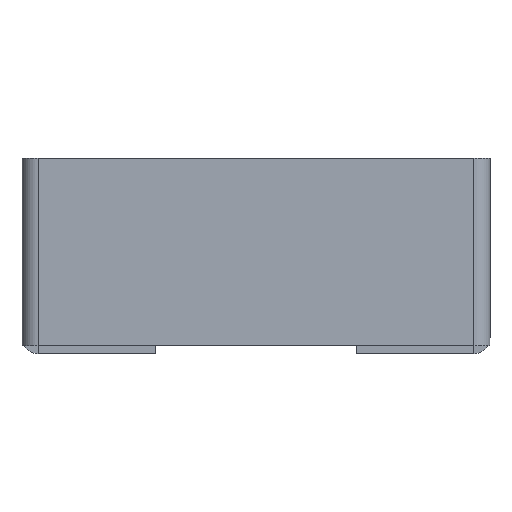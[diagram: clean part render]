
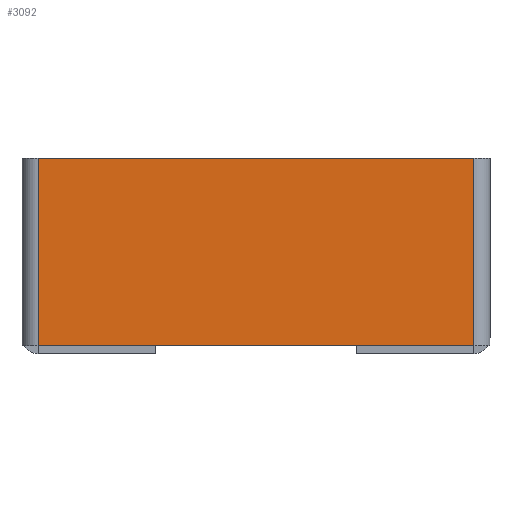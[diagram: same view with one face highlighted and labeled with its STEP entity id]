
A CAD part, front view. The second image highlights one B-rep face of the part: STEP entity #3092.
In plain terms, the highlighted planar face has unit normal (0, -1, 0).
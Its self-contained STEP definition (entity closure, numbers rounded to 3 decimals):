
#142 = DIRECTION ( 'NONE',  ( 1., 0., 0. ) ) ;
#193 = VERTEX_POINT ( 'NONE', #6000 ) ;
#413 = EDGE_LOOP ( 'NONE', ( #2958, #2737, #5748, #509 ) ) ;
#432 = VECTOR ( 'NONE', #142, 1000. ) ;
#509 = ORIENTED_EDGE ( 'NONE', *, *, #5050, .F. ) ;
#613 = DIRECTION ( 'NONE',  ( 0., 0., 1. ) ) ;
#679 = DIRECTION ( 'NONE',  ( 0., 0., -1. ) ) ;
#732 = VECTOR ( 'NONE', #2213, 1000. ) ;
#824 = LINE ( 'NONE', #6776, #732 ) ;
#1495 = DIRECTION ( 'NONE',  ( 0., 1., 0. ) ) ;
#1547 = PLANE ( 'NONE',  #1560 ) ;
#1560 = AXIS2_PLACEMENT_3D ( 'NONE', #2087, #1495, #6085 ) ;
#1650 = LINE ( 'NONE', #1821, #3500 ) ;
#1821 = CARTESIAN_POINT ( 'NONE',  ( -67.5, -2.5, 0. ) ) ;
#1822 = VECTOR ( 'NONE', #613, 1000. ) ;
#2087 = CARTESIAN_POINT ( 'NONE',  ( 0., -2.5, 0. ) ) ;
#2139 = VERTEX_POINT ( 'NONE', #3687 ) ;
#2213 = DIRECTION ( 'NONE',  ( -1., 0., 0. ) ) ;
#2737 = ORIENTED_EDGE ( 'NONE', *, *, #6933, .F. ) ;
#2958 = ORIENTED_EDGE ( 'NONE', *, *, #7084, .T. ) ;
#3092 = ADVANCED_FACE ( 'NONE', ( #4402 ), #1547, .F. ) ;
#3500 = VECTOR ( 'NONE', #679, 1000. ) ;
#3659 = EDGE_CURVE ( 'NONE', #193, #2139, #5996, .T. ) ;
#3687 = CARTESIAN_POINT ( 'NONE',  ( 67.5, -2.5, 0. ) ) ;
#4402 = FACE_OUTER_BOUND ( 'NONE', #413, .T. ) ;
#4423 = VERTEX_POINT ( 'NONE', #5040 ) ;
#5040 = CARTESIAN_POINT ( 'NONE',  ( -67.5, -2.5, 0. ) ) ;
#5050 = EDGE_CURVE ( 'NONE', #4423, #2139, #6945, .T. ) ;
#5191 = VERTEX_POINT ( 'NONE', #5841 ) ;
#5748 = ORIENTED_EDGE ( 'NONE', *, *, #3659, .T. ) ;
#5841 = CARTESIAN_POINT ( 'NONE',  ( -67.5, -2.5, -58. ) ) ;
#5996 = LINE ( 'NONE', #6281, #1822 ) ;
#6000 = CARTESIAN_POINT ( 'NONE',  ( 67.5, -2.5, -58. ) ) ;
#6085 = DIRECTION ( 'NONE',  ( 0., 0., 1. ) ) ;
#6281 = CARTESIAN_POINT ( 'NONE',  ( 67.5, -2.5, -58. ) ) ;
#6767 = CARTESIAN_POINT ( 'NONE',  ( -70., -2.5, 0. ) ) ;
#6776 = CARTESIAN_POINT ( 'NONE',  ( -70., -2.5, -58. ) ) ;
#6933 = EDGE_CURVE ( 'NONE', #193, #5191, #824, .T. ) ;
#6945 = LINE ( 'NONE', #6767, #432 ) ;
#7084 = EDGE_CURVE ( 'NONE', #4423, #5191, #1650, .T. ) ;
